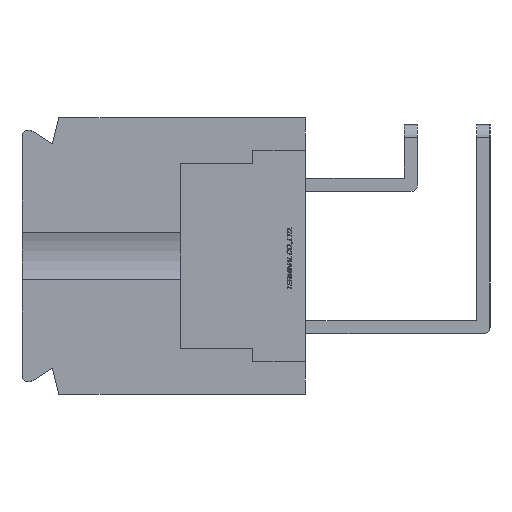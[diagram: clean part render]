
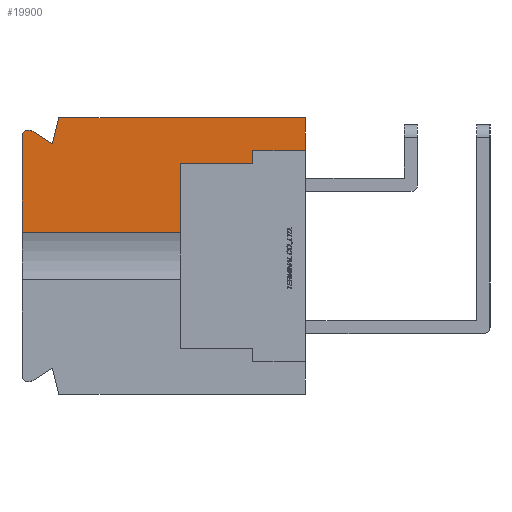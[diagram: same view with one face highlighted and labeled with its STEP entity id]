
A CAD part, left-side view. The second image highlights one B-rep face of the part: STEP entity #19900.
In plain terms, the highlighted planar face has unit normal (-1, 0, 0).
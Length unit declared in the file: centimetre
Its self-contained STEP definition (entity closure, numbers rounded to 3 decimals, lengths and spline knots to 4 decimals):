
#537=CIRCLE('',#33671,0.05);
#1051=VECTOR('',#22102,1.);
#1052=VECTOR('',#22103,1.);
#1053=VECTOR('',#22104,1.);
#1054=VECTOR('',#22105,1.);
#1055=VECTOR('',#22106,1.);
#1056=VECTOR('',#22107,1.);
#1057=VECTOR('',#22108,1.);
#1058=VECTOR('',#22109,1.);
#1059=VECTOR('',#22112,1.);
#1060=VECTOR('',#22113,1.);
#3452=LINE('',#26553,#1051);
#3453=LINE('',#26556,#1052);
#3454=LINE('',#26558,#1053);
#3455=LINE('',#26560,#1054);
#3456=LINE('',#26562,#1055);
#3457=LINE('',#26564,#1056);
#3458=LINE('',#26566,#1057);
#3459=LINE('',#26568,#1058);
#3460=LINE('',#26572,#1059);
#3461=LINE('',#26574,#1060);
#5866=VERTEX_POINT('',#26554);
#5867=VERTEX_POINT('',#26555);
#5868=VERTEX_POINT('',#26557);
#5869=VERTEX_POINT('',#26559);
#5870=VERTEX_POINT('',#26561);
#5871=VERTEX_POINT('',#26563);
#5872=VERTEX_POINT('',#26565);
#5873=VERTEX_POINT('',#26567);
#5874=VERTEX_POINT('',#26569);
#5875=VERTEX_POINT('',#26571);
#5876=VERTEX_POINT('',#26573);
#8083=EDGE_CURVE('',#5866,#5867,#3452,.T.);
#8084=EDGE_CURVE('',#5868,#5866,#3453,.T.);
#8085=EDGE_CURVE('',#5869,#5868,#3454,.T.);
#8086=EDGE_CURVE('',#5870,#5869,#3455,.T.);
#8087=EDGE_CURVE('',#5871,#5870,#3456,.T.);
#8088=EDGE_CURVE('',#5872,#5871,#3457,.T.);
#8089=EDGE_CURVE('',#5873,#5872,#3458,.T.);
#8090=EDGE_CURVE('',#5874,#5873,#3459,.T.);
#8091=EDGE_CURVE('',#5875,#5874,#537,.T.);
#8092=EDGE_CURVE('',#5876,#5875,#3460,.T.);
#8093=EDGE_CURVE('',#5876,#5867,#3461,.T.);
#11301=ORIENTED_EDGE('',*,*,#8083,.F.);
#11302=ORIENTED_EDGE('',*,*,#8084,.F.);
#11303=ORIENTED_EDGE('',*,*,#8085,.F.);
#11304=ORIENTED_EDGE('',*,*,#8086,.F.);
#11305=ORIENTED_EDGE('',*,*,#8087,.F.);
#11306=ORIENTED_EDGE('',*,*,#8088,.F.);
#11307=ORIENTED_EDGE('',*,*,#8089,.F.);
#11308=ORIENTED_EDGE('',*,*,#8090,.F.);
#11309=ORIENTED_EDGE('',*,*,#8091,.F.);
#11310=ORIENTED_EDGE('',*,*,#8092,.F.);
#11311=ORIENTED_EDGE('',*,*,#8093,.T.);
#17354=EDGE_LOOP('',(#11301,#11302,#11303,#11304,#11305,#11306,#11307,#11308,
#11309,#11310,#11311));
#18632=FACE_BOUND('',#17354,.T.);
#19900=ADVANCED_FACE('',(#18632),#21046,.F.);
#21046=PLANE('',#33670);
#22101=DIRECTION('',(1.,0.,0.));
#22102=DIRECTION('',(0.,0.,-1.));
#22103=DIRECTION('',(0.,1.,0.));
#22104=DIRECTION('',(0.,0.,-1.));
#22105=DIRECTION('',(0.,1.,0.));
#22106=DIRECTION('',(0.,0.,-1.));
#22107=DIRECTION('',(0.,-1.,0.));
#22108=DIRECTION('',(0.,-0.243,0.97));
#22109=DIRECTION('',(0.,-0.844,-0.536));
#22110=DIRECTION('',(1.,0.,0.));
#22111=DIRECTION('',(0.,0.,-0.05));
#22112=DIRECTION('',(0.,0.,1.));
#22113=DIRECTION('',(0.,-1.,0.));
#26552=CARTESIAN_POINT('',(-1.1,1.082,0.));
#26553=CARTESIAN_POINT('',(-1.1,0.95,-0.7));
#26554=CARTESIAN_POINT('',(-1.1,0.95,0.7));
#26555=CARTESIAN_POINT('',(-1.1,0.95,0.1809));
#26556=CARTESIAN_POINT('',(-1.1,0.95,0.7));
#26557=CARTESIAN_POINT('',(-1.1,0.4,0.7));
#26558=CARTESIAN_POINT('',(-1.1,0.4,0.7));
#26559=CARTESIAN_POINT('',(-1.1,0.4,0.8));
#26560=CARTESIAN_POINT('',(-1.1,0.4,0.8));
#26561=CARTESIAN_POINT('',(-1.1,0.,0.8));
#26562=CARTESIAN_POINT('',(-1.1,0.,1.05));
#26563=CARTESIAN_POINT('',(-1.1,0.,1.05));
#26564=CARTESIAN_POINT('',(-1.1,1.87,1.05));
#26565=CARTESIAN_POINT('',(-1.1,1.87,1.05));
#26566=CARTESIAN_POINT('',(-1.1,1.92,0.85));
#26567=CARTESIAN_POINT('',(-1.1,1.92,0.85));
#26568=CARTESIAN_POINT('',(-1.1,2.0742,0.9478));
#26569=CARTESIAN_POINT('',(-1.1,2.0742,0.9478));
#26570=CARTESIAN_POINT('',(-1.1,2.1,0.905));
#26571=CARTESIAN_POINT('',(-1.1,2.15,0.905));
#26572=CARTESIAN_POINT('',(-1.1,2.15,-0.905));
#26573=CARTESIAN_POINT('',(-1.1,2.15,0.1809));
#26574=CARTESIAN_POINT('',(-1.1,1.55,0.1809));
#33670=AXIS2_PLACEMENT_3D('',#26552,#22101,$);
#33671=AXIS2_PLACEMENT_3D('',#26570,#22110,#22111);
